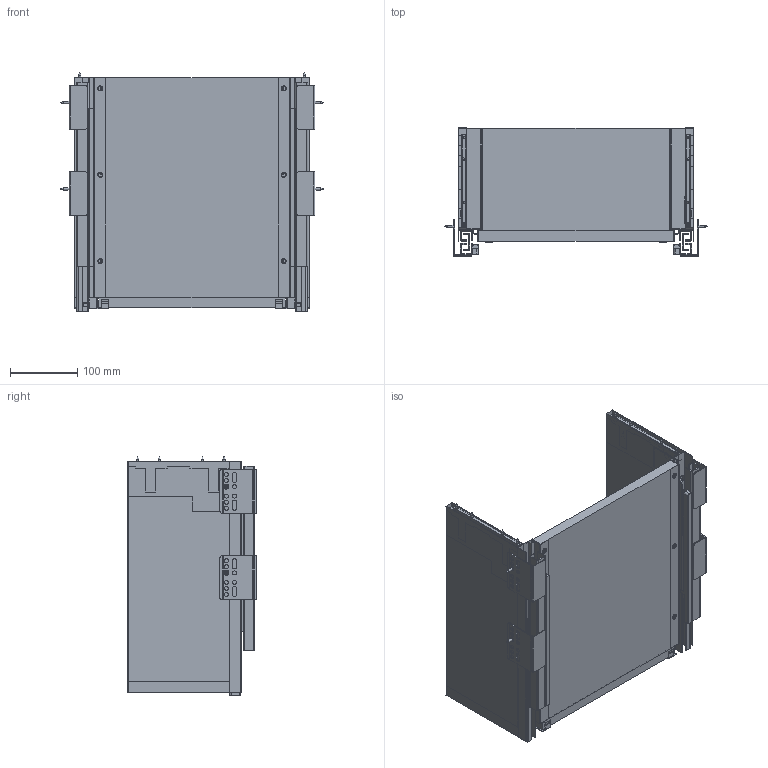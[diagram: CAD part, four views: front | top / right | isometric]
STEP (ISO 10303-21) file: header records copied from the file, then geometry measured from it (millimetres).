
FILE_DESCRIPTION(/* description */ (''),/* implementation_level */ '2;1');
FILE_NAME(/* name */ 'D:\$Workingspace\Designs\Katalog\Cadsoft\GTV Prowadnice\GTV 3D AXISPRO\Model\PB-AXISPRO-KPL350C_C1.stp',/* time_stamp */ '2019-12-16T10:00:48+01:00',/* author */ ('tomaszw'),/* organization */ (''),/* preprocessor_version */ 'ST-DEVELOPER v17.2',/* originating_system */ 'Autodesk Inventor 2019',/* authorisation */ '');
FILE_SCHEMA (('AUTOMOTIVE_DESIGN { 1 0 10303 214 3 1 1 }'));
Products named in the file (1): PB-AXISPRO-KPL350C1-F
Bounding box: 388.6 x 190 x 354.9 mm (x, y, z)
Volume: 2823964.7 mm3; surface area: 1205461.2 mm2
Topology: 47 solids, 49 shells, 1898 faces, 4966 edges, 3252 vertices
Faces by surface type: plane 1356, cylinder 314, bspline 116, cone 104, sphere 6, torus 2
Full cylindrical faces by diameter (mm): 2 x4, 3.5 x32, 6 x40, 7.5 x26, 7.8 x2, 8.5 x2, 10 x6
Entity records: 59186 total; most frequent: CARTESIAN_POINT 12235, ORIENTED_EDGE 9916, DIRECTION 9044, EDGE_CURVE 4958, LINE 3914, VECTOR 3914, VERTEX_POINT 3252, AXIS2_PLACEMENT_3D 2565
